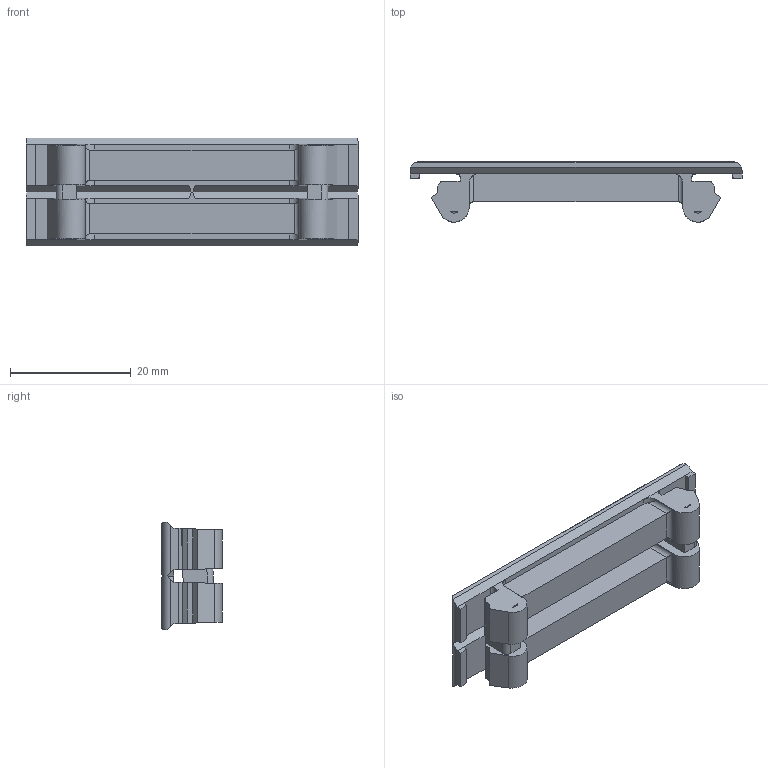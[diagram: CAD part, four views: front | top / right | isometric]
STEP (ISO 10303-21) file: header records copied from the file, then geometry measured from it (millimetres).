
FILE_DESCRIPTION (( 'STEP AP203' ), '1' );
FILE_NAME ('TQW.STEP', '2021-05-11T16:43:57', ( 'Usuário do Windows' ), ( 'WEG Equipamentos Elétricos' ), 'SwSTEP 2.0', 'SolidWorks 2018', '' );
FILE_SCHEMA (( 'CONFIG_CONTROL_DESIGN' ));
Length unit declared in the file: millimetre
Products named in the file (2): TQW
Bounding box: 55 x 10 x 17.8 mm (x, y, z)
Volume: 4476.3 mm3; surface area: 3681.7 mm2
Topology: 1 solids, 1 shells, 129 faces, 361 edges, 228 vertices
Faces by surface type: plane 95, cylinder 32, bspline 2
Entity records: 4276 total; most frequent: CARTESIAN_POINT 1002, ORIENTED_EDGE 722, DIRECTION 563, EDGE_CURVE 361, VECTOR 281, LINE 281, VERTEX_POINT 228, AXIS2_PLACEMENT_3D 141
